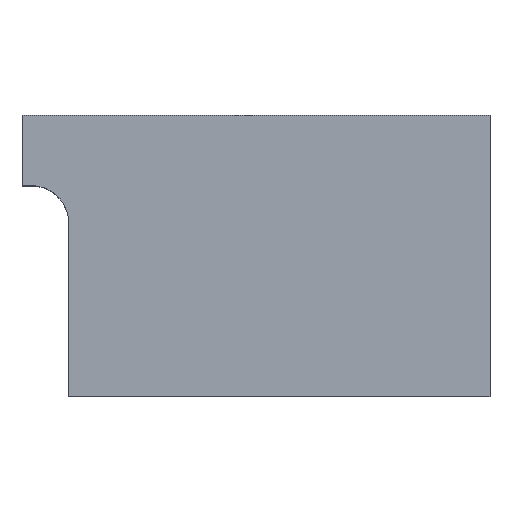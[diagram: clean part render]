
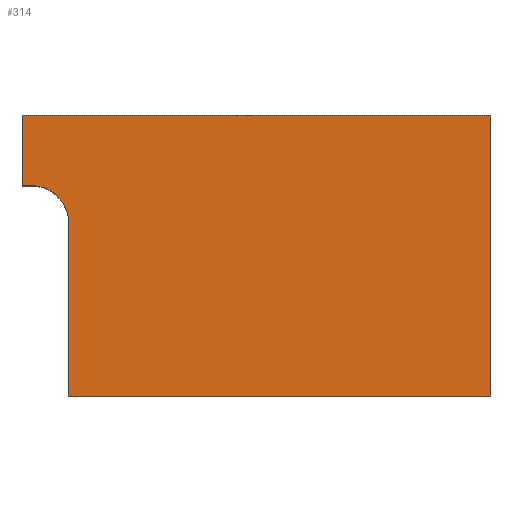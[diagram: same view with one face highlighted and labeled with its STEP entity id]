
A CAD part, top view. The second image highlights one B-rep face of the part: STEP entity #314.
In plain terms, the highlighted planar face has unit normal (0, 0, 1).
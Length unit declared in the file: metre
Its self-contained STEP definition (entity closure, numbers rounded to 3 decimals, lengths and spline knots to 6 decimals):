
#24=CIRCLE('',#405,0.00008);
#76=ORIENTED_EDGE('',*,*,#129,.T.);
#77=ORIENTED_EDGE('',*,*,#126,.T.);
#78=ORIENTED_EDGE('',*,*,#117,.T.);
#79=ORIENTED_EDGE('',*,*,#146,.F.);
#80=ORIENTED_EDGE('',*,*,#141,.T.);
#81=ORIENTED_EDGE('',*,*,#147,.T.);
#82=ORIENTED_EDGE('',*,*,#148,.F.);
#117=EDGE_CURVE('',#160,#159,#187,.T.);
#126=EDGE_CURVE('',#168,#160,#24,.T.);
#129=EDGE_CURVE('',#170,#168,#197,.T.);
#141=EDGE_CURVE('',#179,#178,#207,.T.);
#146=EDGE_CURVE('',#179,#159,#212,.T.);
#147=EDGE_CURVE('',#178,#181,#213,.T.);
#148=EDGE_CURVE('',#170,#181,#214,.T.);
#159=VERTEX_POINT('',#511);
#160=VERTEX_POINT('',#513);
#168=VERTEX_POINT('',#532);
#170=VERTEX_POINT('',#538);
#178=VERTEX_POINT('',#560);
#179=VERTEX_POINT('',#562);
#181=VERTEX_POINT('',#573);
#187=LINE('',#512,#225);
#197=LINE('',#537,#235);
#207=LINE('',#561,#245);
#212=LINE('',#570,#250);
#213=LINE('',#572,#251);
#214=LINE('',#574,#252);
#225=VECTOR('',#429,1.);
#235=VECTOR('',#449,1.);
#245=VECTOR('',#469,1.);
#250=VECTOR('',#478,1.);
#251=VECTOR('',#481,1.);
#252=VECTOR('',#482,1.);
#268=EDGE_LOOP('',(#76,#77,#78,#79,#80,#81,#82));
#284=FACE_BOUND('',#268,.T.);
#298=PLANE('',#414);
#314=ADVANCED_FACE('',(#284),#298,.T.);
#405=AXIS2_PLACEMENT_3D('',#531,#443,#444);
#414=AXIS2_PLACEMENT_3D('',#571,#479,#480);
#429=DIRECTION('',(0.,-1.,0.));
#443=DIRECTION('',(0.,0.,-1.));
#444=DIRECTION('',(-1.,0.,0.));
#449=DIRECTION('',(1.,0.,0.));
#469=DIRECTION('',(0.,1.,0.));
#478=DIRECTION('',(-1.,0.,0.));
#479=DIRECTION('',(0.,0.,1.));
#480=DIRECTION('',(0.,1.,0.));
#481=DIRECTION('',(-1.,0.,0.));
#482=DIRECTION('',(0.,1.,0.));
#511=CARTESIAN_POINT('',(-0.093678,-0.013522,0.0079));
#512=CARTESIAN_POINT('',(-0.093678,-0.013472,0.0079));
#513=CARTESIAN_POINT('',(-0.093678,-0.013152,0.0079));
#531=CARTESIAN_POINT('',(-0.093758,-0.013152,0.0079));
#532=CARTESIAN_POINT('',(-0.093758,-0.013072,0.0079));
#537=CARTESIAN_POINT('',(-0.093903,-0.013072,0.0079));
#538=CARTESIAN_POINT('',(-0.093778,-0.013072,0.0079));
#560=CARTESIAN_POINT('',(-0.092778,-0.012922,0.0079));
#561=CARTESIAN_POINT('',(-0.092778,-0.013522,0.0079));
#562=CARTESIAN_POINT('',(-0.092778,-0.013522,0.0079));
#570=CARTESIAN_POINT('',(-0.092778,-0.013522,0.0079));
#571=CARTESIAN_POINT('',(-0.092778,-0.013522,0.0079));
#572=CARTESIAN_POINT('',(-0.092778,-0.012922,0.0079));
#573=CARTESIAN_POINT('',(-0.093778,-0.012922,0.0079));
#574=CARTESIAN_POINT('',(-0.093778,-0.013522,0.0079));
